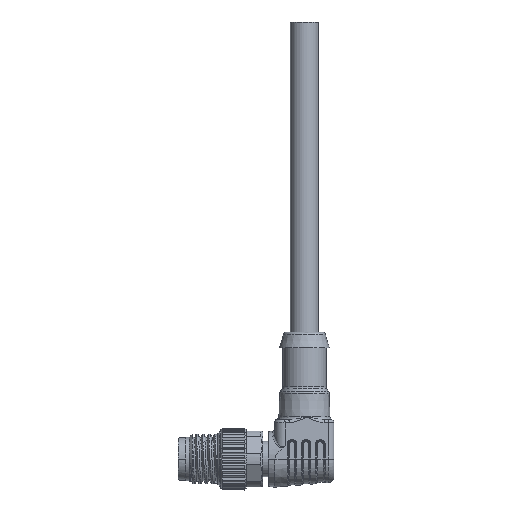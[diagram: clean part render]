
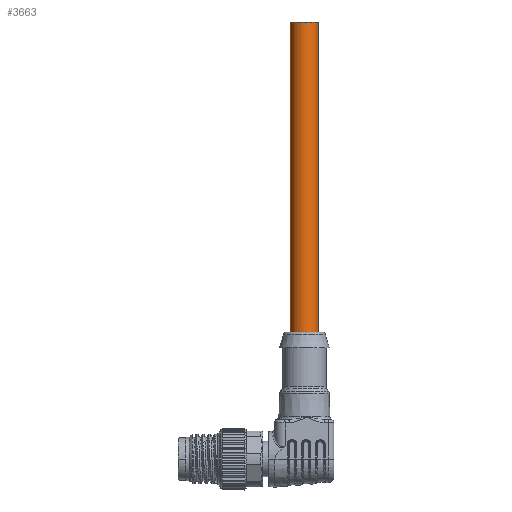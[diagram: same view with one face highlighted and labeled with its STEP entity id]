
A CAD part, front view. The second image highlights one B-rep face of the part: STEP entity #3663.
In plain terms, the highlighted cylindrical face has radius 2.25 mm (diameter 4.5 mm), a partial arc.
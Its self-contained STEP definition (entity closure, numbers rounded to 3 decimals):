
#838 = CYLINDRICAL_SURFACE ( 'NONE', #25603, 2.25 ) ;
#1902 = VECTOR ( 'NONE', #23844, 1000. ) ;
#3413 = EDGE_CURVE ( 'NONE', #7317, #14946, #5031, .T. ) ;
#3663 = ADVANCED_FACE ( 'NONE', ( #4168 ), #838, .T. ) ;
#4168 = FACE_OUTER_BOUND ( 'NONE', #11324, .T. ) ;
#4486 = ORIENTED_EDGE ( 'NONE', *, *, #19782, .T. ) ;
#5031 = CIRCLE ( 'NONE', #7452, 2.25 ) ;
#5846 = LINE ( 'NONE', #8172, #15478 ) ;
#6827 = DIRECTION ( 'NONE',  ( 0., 0., 1. ) ) ;
#7065 = ORIENTED_EDGE ( 'NONE', *, *, #24692, .F. ) ;
#7317 = VERTEX_POINT ( 'NONE', #18013 ) ;
#7452 = AXIS2_PLACEMENT_3D ( 'NONE', #16226, #26856, #34567 ) ;
#8172 = CARTESIAN_POINT ( 'NONE',  ( 4.65, 0., 20.451 ) ) ;
#8736 = CIRCLE ( 'NONE', #30152, 2.25 ) ;
#9428 = DIRECTION ( 'NONE',  ( 1., 0., 0. ) ) ;
#10416 = DIRECTION ( 'NONE',  ( 0., 0., 1. ) ) ;
#10618 = EDGE_CURVE ( 'NONE', #28503, #7317, #19531, .T. ) ;
#11324 = EDGE_LOOP ( 'NONE', ( #7065, #4486, #33879, #14221 ) ) ;
#12717 = DIRECTION ( 'NONE',  ( 1., 0., 0. ) ) ;
#12830 = CARTESIAN_POINT ( 'NONE',  ( 6.9, 0., 20.451 ) ) ;
#13573 = VERTEX_POINT ( 'NONE', #30260 ) ;
#14221 = ORIENTED_EDGE ( 'NONE', *, *, #3413, .T. ) ;
#14946 = VERTEX_POINT ( 'NONE', #28267 ) ;
#15478 = VECTOR ( 'NONE', #10416, 1000. ) ;
#16226 = CARTESIAN_POINT ( 'NONE',  ( 6.9, 0., 70.451 ) ) ;
#18013 = CARTESIAN_POINT ( 'NONE',  ( 9.15, 0., 70.451 ) ) ;
#19531 = LINE ( 'NONE', #28739, #1902 ) ;
#19782 = EDGE_CURVE ( 'NONE', #13573, #28503, #8736, .T. ) ;
#20680 = CARTESIAN_POINT ( 'NONE',  ( 6.9, 0., 20.451 ) ) ;
#23246 = DIRECTION ( 'NONE',  ( 0., 0., 1. ) ) ;
#23844 = DIRECTION ( 'NONE',  ( 0., 0., 1. ) ) ;
#24692 = EDGE_CURVE ( 'NONE', #13573, #14946, #5846, .T. ) ;
#25169 = CARTESIAN_POINT ( 'NONE',  ( 9.15, 0., 20.451 ) ) ;
#25603 = AXIS2_PLACEMENT_3D ( 'NONE', #20680, #6827, #9428 ) ;
#26856 = DIRECTION ( 'NONE',  ( 0., 0., -1. ) ) ;
#28267 = CARTESIAN_POINT ( 'NONE',  ( 4.65, 0., 70.451 ) ) ;
#28503 = VERTEX_POINT ( 'NONE', #25169 ) ;
#28739 = CARTESIAN_POINT ( 'NONE',  ( 9.15, 0., 20.451 ) ) ;
#30152 = AXIS2_PLACEMENT_3D ( 'NONE', #12830, #23246, #12717 ) ;
#30260 = CARTESIAN_POINT ( 'NONE',  ( 4.65, 0., 20.451 ) ) ;
#33879 = ORIENTED_EDGE ( 'NONE', *, *, #10618, .T. ) ;
#34567 = DIRECTION ( 'NONE',  ( 1., 0., 0. ) ) ;
